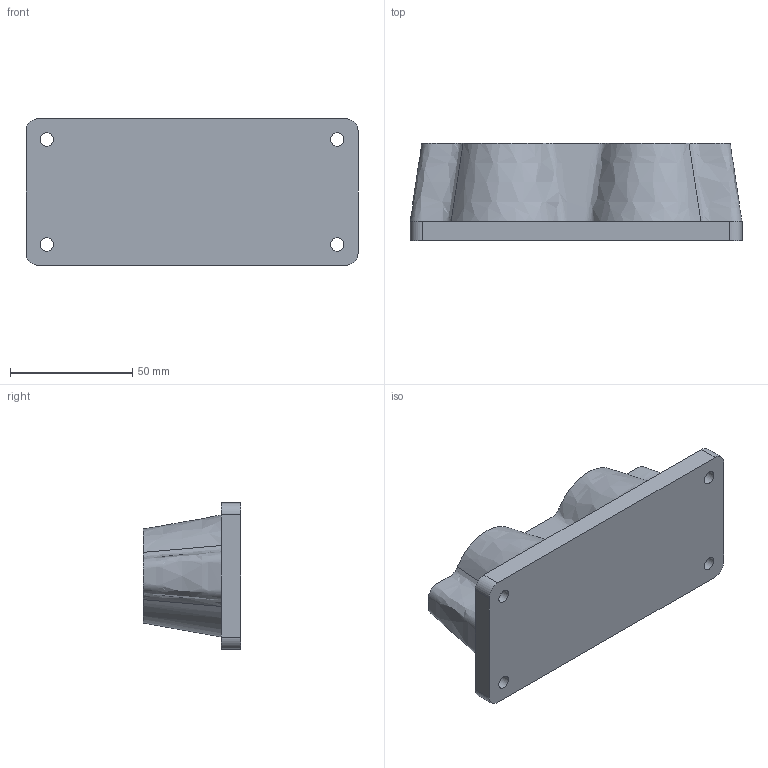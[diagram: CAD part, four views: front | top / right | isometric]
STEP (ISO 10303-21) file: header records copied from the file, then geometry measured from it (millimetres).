
FILE_DESCRIPTION( ( 'STEP AP214' ), '1' );
FILE_NAME( 'p:/temp/worker_23/temp/exporttempdir_3908_370_Uxo5f/format_0/105929 SCG 2.stp', '2021-05-11T08:26:31', ( 'License CC BY-ND 4.0' ), ( 'CADENAS' ), ' ', 'PARTsolutions', ' ' );
FILE_SCHEMA( ( 'AUTOMOTIVE_DESIGN { 1 0 10303 214 1 1 1 1 }' ) );
Length unit declared in the file: millimetre
Products named in the file (1): _105929 SCG 2
Bounding box: 136 x 40 x 60 mm (x, y, z)
Volume: 185466.7 mm3; surface area: 28701.6 mm2
Topology: 1 solids, 1 shells, 22 faces, 92 edges, 72 vertices
Faces by surface type: plane 8, cylinder 8, bspline 6
Full cylindrical faces by diameter (mm): 5.5 x4
Entity records: 1570 total; most frequent: CARTESIAN_POINT 703, ORIENTED_EDGE 176, EDGE_CURVE 88, DIRECTION 84, VERTEX_POINT 72, B_SPLINE_CURVE_WITH_KNOTS 54, EDGE_LOOP 34, AXIS2_PLACEMENT_3D 33
